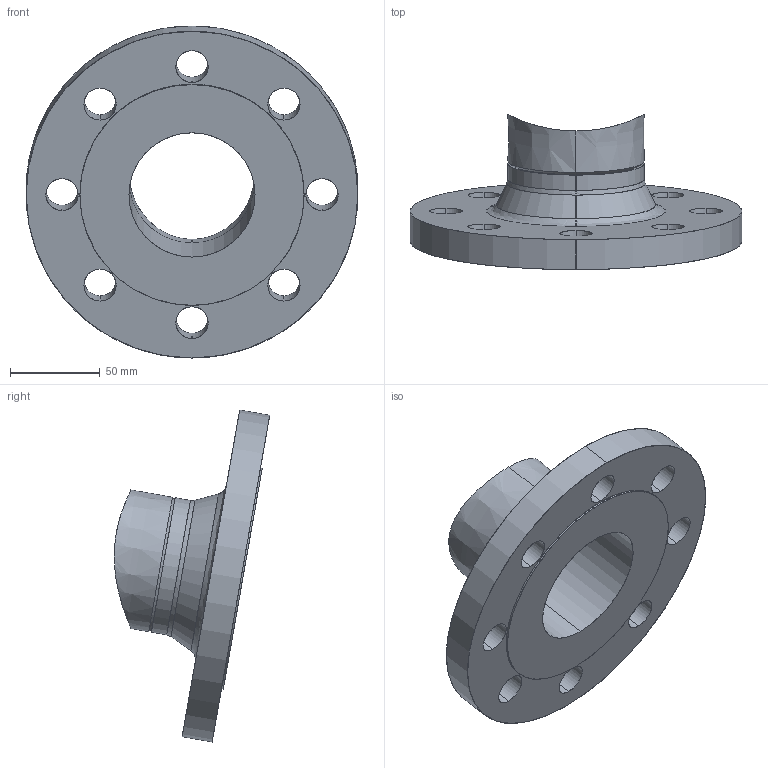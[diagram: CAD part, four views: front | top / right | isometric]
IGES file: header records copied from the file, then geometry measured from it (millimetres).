
Start section: SolidWorks IGES file using analytic representation for surfaces
Global section: file name: C:\Users\aloerke\Desktop\Arbeits-Ordner\LZX661.TD.00000__d1__001.IGS; native system: SolidWorks 2016; preprocessor: SolidWorks 2016; author: aloerke; date: 170104.122459; units: millimetre
Bounding box: 185 x 86.69 x 185.14 mm (x, y, z)
Surface area: 86388.1 mm2 (no closed solid volume)
Topology: 0 solids, 0 shells, 42 faces, 1557 edges, 1557 vertices
Faces by surface type: revolution 33, bspline 9
